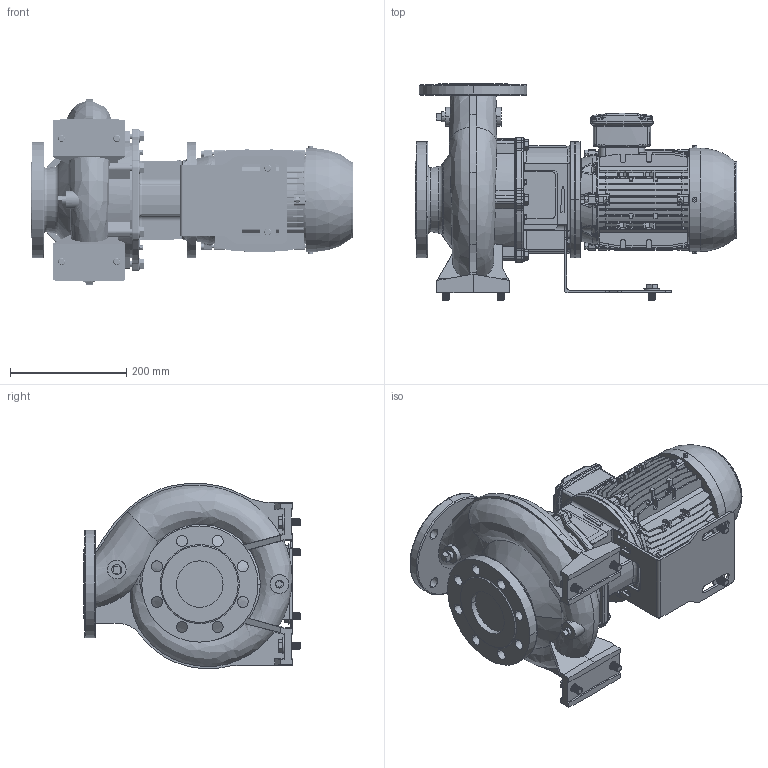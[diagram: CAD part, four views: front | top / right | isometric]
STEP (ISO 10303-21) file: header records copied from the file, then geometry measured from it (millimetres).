
FILE_DESCRIPTION (( 'STEP AP214' ), '1' );
FILE_NAME ('GSD4 65-160_1.1 & 1.5_(90SL)_W21.STEP', '2026-07-01T01:32:06', ( '' ), ( '' ), 'SwSTEP 2.0', 'SolidWorks 2024', '' );
FILE_SCHEMA (( 'AUTOMOTIVE_DESIGN' ));
Length unit declared in the file: millimetre
Products named in the file (9): Parametric Flat Washer_M12; CGSD1-4153; Parametric bolt_SFT-A295B; Parametric bolt and washer_SFT-A299B; Parametric bolt_SFT-A299B; 90S_L ALIE3_W21T_B5; GSD4 65-160_1.1 & 1.5_(90SL)_W21; Parametric bolt and washer_SFT-A295B; 65-160-90S_L_ﾃﾞﾌｫﾙﾄ
Assembly tree (13 placements, depth 3):
  GSD4 65-160_1.1 & 1.5_(90SL)_W21
    65-160-90S_L_ﾃﾞﾌｫﾙﾄ
    90S_L ALIE3_W21T_B5
    CGSD1-4153
    Parametric bolt and washer_SFT-A299B  x4
      Parametric bolt_SFT-A299B
      Parametric Flat Washer_M12
    Parametric bolt and washer_SFT-A295B  x2
      Parametric bolt_SFT-A295B
      Parametric Flat Washer_M12
Bounding box: 554 x 373 x 319.16 mm (x, y, z)
Volume: 15082866.8 mm3; surface area: 1218530.7 mm2
Topology: 18 solids, 22 shells, 3668 faces, 9630 edges, 6185 vertices
Faces by surface type: plane 1899, cylinder 1018, torus 297, bspline 251, cone 181, sphere 22
Entity records: 193243 total; most frequent: CARTESIAN_POINT 111126, ORIENTED_EDGE 17902, DIRECTION 15829, EDGE_CURVE 8951, VERTEX_POINT 5772, AXIS2_PLACEMENT_3D 5315, VECTOR 5199, LINE 5199
